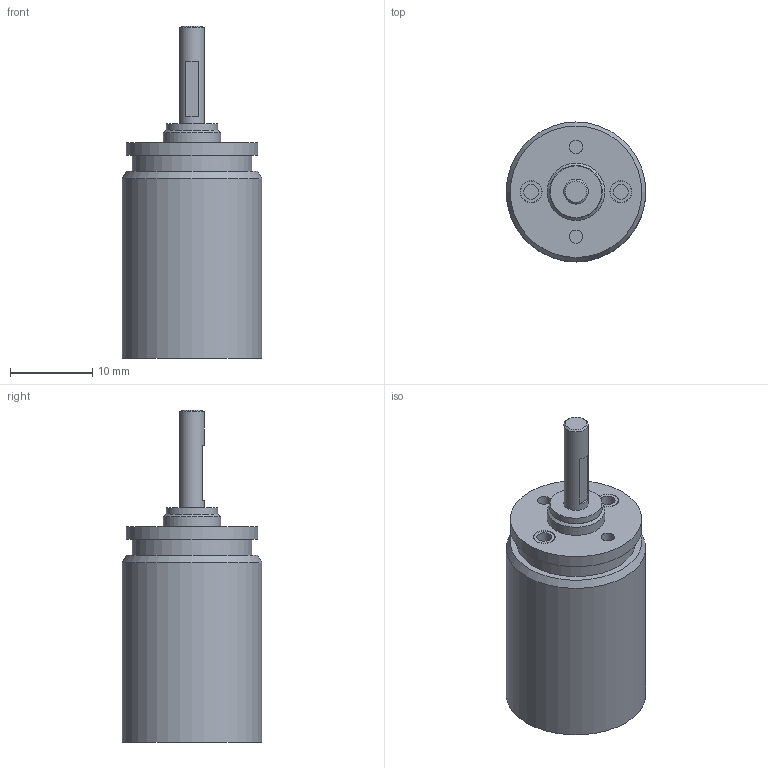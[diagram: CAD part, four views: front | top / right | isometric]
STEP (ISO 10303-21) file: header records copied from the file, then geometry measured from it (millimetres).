
FILE_DESCRIPTION(/* description */ (''),/* implementation_level */ '2;1');
FILE_NAME(/* name */ '16-5_2.stp',/* time_stamp */ '2016-08-25T11:02:38+02:00',/* author */ ('DR. FRITZ FAULHABER GmbH & Co. KG'),/* organization */ ('DR. FRITZ FAULHABER GmbH & Co. KG'),/* preprocessor_version */ 'ST-DEVELOPER v16',/* originating_system */ 'SIEMENS PLM Software NX 10.0',/* authorisation */ '');
FILE_SCHEMA (('AUTOMOTIVE_DESIGN { 1 0 10303 214 3 1 1 1 }'));
Length unit declared in the file: millimetre
Products named in the file (1): H00000531_A
Bounding box: 17 x 17 x 40.4 mm (x, y, z)
Volume: 3257.9 mm3; surface area: 2804.1 mm2
Topology: 1 solids, 1 shells, 41 faces, 65 edges, 43 vertices
Faces by surface type: plane 21, cylinder 17, cone 3
Full cylindrical faces by diameter (mm): 1.6 x2, 1.8 x2, 2.48 x1, 2.584 x2, 2.684 x2, 3 x1, 6 x1, 6.3 x1, 7 x1, 14.5 x1, 16 x2, 17 x1
Entity records: 856 total; most frequent: DIRECTION 166, CARTESIAN_POINT 126, ORIENTED_EDGE 86, AXIS2_PLACEMENT_3D 81, EDGE_LOOP 78, FACE_BOUND 69, EDGE_CURVE 43, ADVANCED_FACE 41
